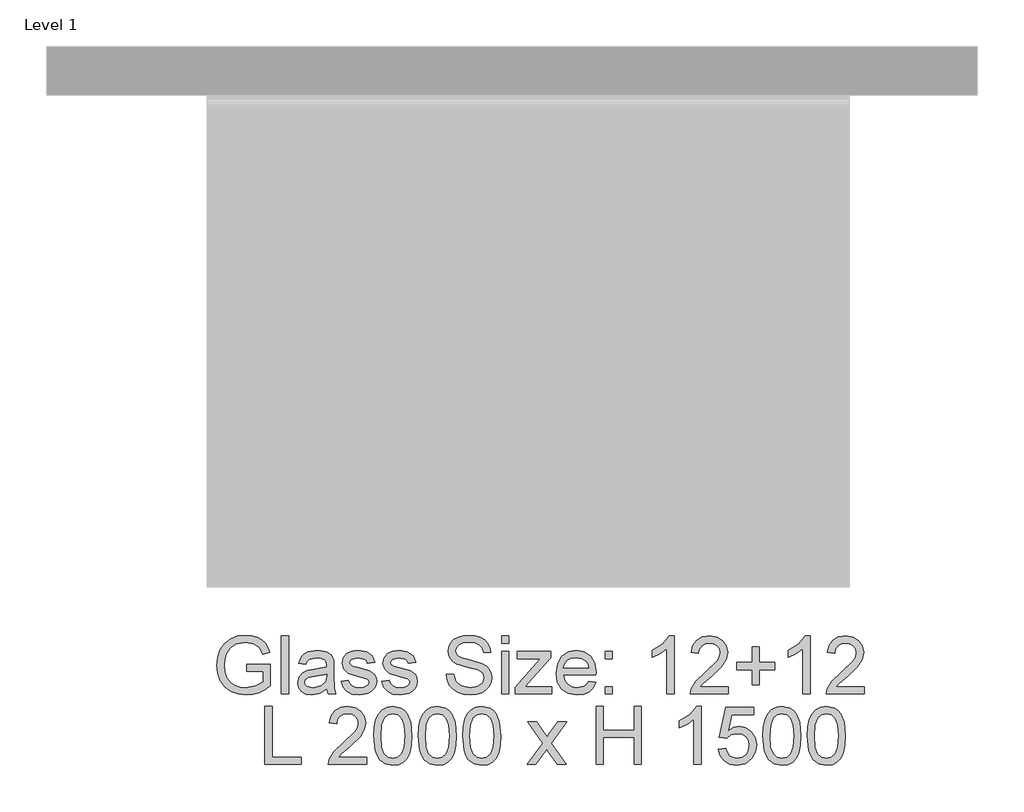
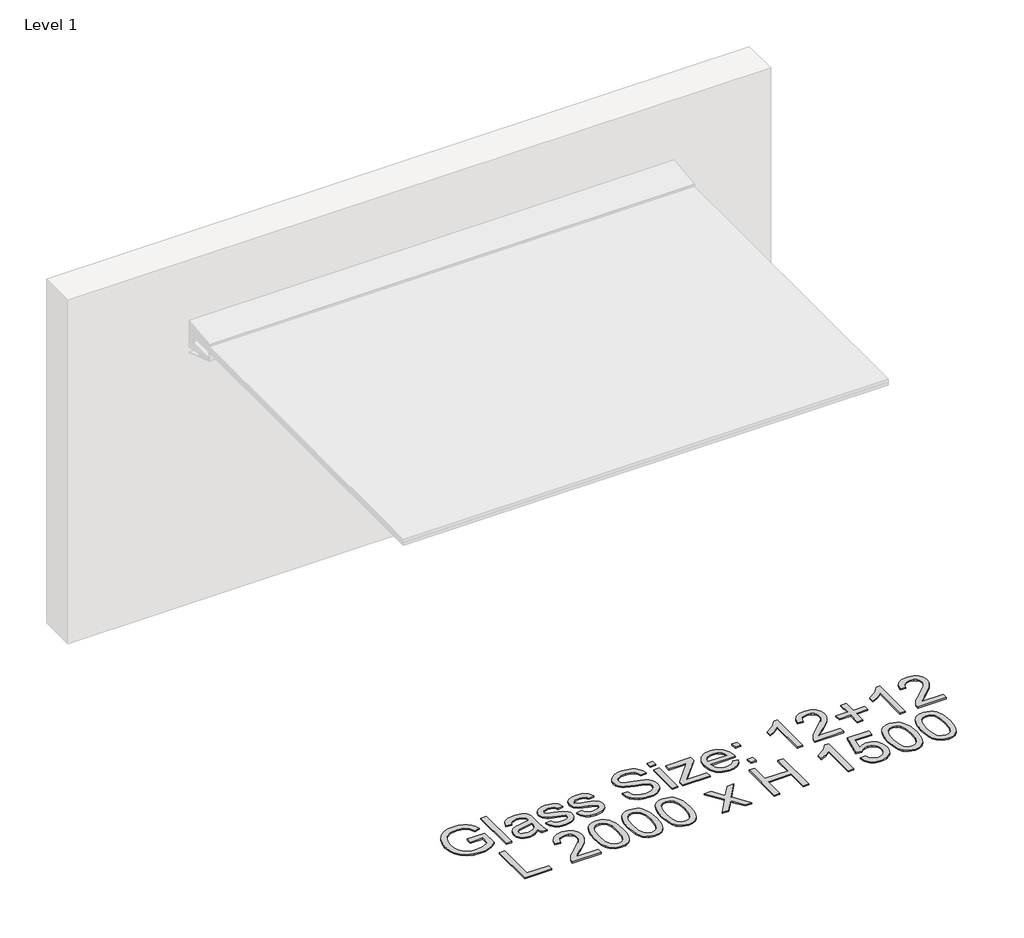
# One storey, part 3 of 7: 1 proxy.
"""IFC4 building model written with IfcOpenShell, lengths in millimetres."""

from ifc_helpers import new_model, si_unit, origin, origin_with_axes, place, context, project, spatial, polyline, outline, extrude, element, save

model = new_model("IFC4")

# Units and contexts
model_context = context("Model", 3, world=origin())
ifc_project = project(units=[si_unit("LENGTHUNIT", "METRE", prefix="MILLI")], contexts=[model_context])

# Site, building, storey
site = spatial("IfcSite", under=ifc_project)
building = spatial("IfcBuilding", under=site)
storey = spatial("IfcBuildingStorey", under=building, Name="Level 1", Elevation=0.0)

# Proxy
placement = place(None, origin())
element("IfcBuildingElementProxy", 1, Name="600mm Arial 3", ObjectType="600mm Arial 3", at=placement, inside=storey, context=model_context, shape_type="SweptSolid", body=[
    extrude(outline(polyline([(22306.0715057, -4137.1901227), (22306.0715057, -4114.5874529), (22379.5301825, -4114.5874529), (22379.5301825, -4182.174733), (22361.6787087, -4194.5907504), (22343.2643754, -4203.4971735), (22324.3313285, -4208.860893), (22304.9237139, -4210.6487995), (22279.5674473, -4207.8069111), (22256.6502384, -4199.2812458), (22237.6123452, -4185.3697882), (22223.8940256, -4166.3705225), (22215.600126, -4143.5802329), (22212.8354928, -4118.2957034), (22215.5890896, -4092.8290723), (22223.8498798, -4069.1393112), (22237.2757332, -4049.2681652), (22255.5245195, -4035.2573794), (22277.7519497, -4026.9469252), (22303.1137344, -4024.1767737), (22321.7322422, -4025.7825787), (22338.4745518, -4030.5999934), (22352.5736293, -4038.2813694), (22363.2624406, -4048.4790584), (22371.1700641, -4061.6841826), (22376.9255779, -4078.3878646), (22356.0887417, -4084.2592612), (22345.7806882, -4063.3562062), (22328.1664983, -4051.3043921), (22302.7605677, -4046.7794435), (22273.82297, -4051.6575588), (22254.1339256, -4064.4598522), (22242.5014969, -4081.8753859), (22237.2039962, -4098.9377528), (22235.4381626, -4117.3686408), (22237.5626811, -4138.9835474), (22243.9362367, -4156.7688025), (22254.3656913, -4170.5974866), (22268.6579068, -4180.3426807), (22285.3836617, -4186.1202674), (22303.1137344, -4188.0461297), (22334.037895, -4182.2409518), (22356.9275127, -4169.8580438), (22356.9275127, -4137.1901227), (22306.0715057, -4137.1901227)])), origin_with_axes(), (0.0, 0.0, 1.0), 5.0),
    extrude(outline(polyline([(22413.4341871, -4207.8234657), (22413.4341871, -4027.0021075), (22436.0368569, -4027.0021075), (22436.0368569, -4207.8234657), (22413.4341871, -4207.8234657)])), origin_with_axes(), (0.0, 0.0, 1.0), 5.0),
    extrude(outline(polyline([(22554.7008733, -4190.8714634), (22532.782464, -4206.1900697), (22508.5684711, -4210.6487995), (22489.6795701, -4207.9669397), (22475.7460395, -4199.9213605), (22467.1541555, -4187.7039994), (22464.2901942, -4172.5067942), (22468.6164864, -4154.6277292), (22479.9840401, -4141.6488524), (22495.8103235, -4134.2323514), (22515.3669304, -4130.8331218), (22554.5684358, -4123.0634541), (22554.7008733, -4118.0308284), (22553.1447325, -4107.9435041), (22548.4763099, -4101.3437011), (22538.0358189, -4096.4435129), (22523.4897648, -4094.8101168), (22500.62222, -4099.158482), (22494.2100368, -4105.1899073), (22489.7181977, -4114.5874529), (22467.1155279, -4111.7621192), (22476.8938313, -4089.6891995), (22485.2263585, -4082.261662), (22496.5828757, -4076.7544685), (22526.4033902, -4072.207447), (22553.7958836, -4076.2247184), (22569.2690003, -4086.3120427), (22576.1998971, -4101.6527219), (22577.3035431, -4121.430058), (22577.3035431, -4149.5509577), (22578.4513349, -4188.8186819), (22582.9542105, -4207.8234657), (22560.3515407, -4207.8234657), (22554.7008733, -4190.8714634)]), holes=[polyline([(22554.7008733, -4145.6661238), (22518.2364099, -4152.5970206), (22498.7901677, -4156.2611253), (22489.9830727, -4162.2208136), (22486.8928639, -4170.917544), (22488.5759241, -4177.638748), (22493.6251045, -4183.1459415), (22513.3803676, -4188.0461297), (22536.2479124, -4182.6382644), (22550.9926228, -4169.549023), (22554.5684358, -4152.0672706), (22554.7008733, -4145.6661238)])]), origin_with_axes(), (0.0, 0.0, 1.0), 5.0),
    extrude(outline(polyline([(22599.9062129, -4168.2687936), (22622.5088826, -4165.4434599), (22626.0736592, -4175.1113987), (22632.9714466, -4182.2188789), (22643.2463907, -4186.589317), (22656.9426374, -4188.0461297), (22670.4733372, -4186.710718), (22679.9867656, -4182.7044831), (22685.6153601, -4176.8993052), (22687.4915583, -4170.1670647), (22685.6043236, -4164.4060327), (22679.9426197, -4160.0135216), (22656.6777624, -4153.5682291), (22622.6413202, -4142.5096963), (22607.7862452, -4129.5970383), (22602.7315466, -4111.3648066), (22606.7929638, -4094.5231689), (22617.8735695, -4081.6546567), (22632.2430402, -4074.966562), (22651.6892825, -4072.207447), (22679.1921405, -4076.6441039), (22696.6738929, -4088.6517722), (22704.4435606, -4108.9367854), (22681.8408908, -4111.7621192), (22678.987966, -4104.6491208), (22673.3428167, -4099.2909195), (22653.4551161, -4094.8101168), (22631.8236548, -4099.0922632), (22625.3342164, -4109.069223), (22628.0271126, -4115.646953), (22636.4589679, -4120.6354329), (22655.9272831, -4125.4473294), (22689.1028814, -4136.0864767), (22704.5097794, -4148.1382908), (22708.6981159, -4157.0005681), (22710.0942281, -4167.7831894), (22708.4553138, -4178.9300138), (22703.5385709, -4189.4146507), (22695.5316193, -4198.4148837), (22684.6220787, -4205.1084966), (22656.6336165, -4210.6487995), (22633.8433269, -4207.9779762), (22617.2113819, -4199.9655063), (22606.1087033, -4186.6996816), (22599.9062129, -4168.2687936)])), origin_with_axes(), (0.0, 0.0, 1.0), 5.0),
    extrude(outline(polyline([(22727.0462304, -4168.2687936), (22749.6489002, -4165.4434599), (22753.2136767, -4175.1113987), (22760.1114641, -4182.2188789), (22770.3864082, -4186.589317), (22784.0826549, -4188.0461297), (22797.6133547, -4186.710718), (22807.1267831, -4182.7044831), (22812.7553776, -4176.8993052), (22814.6315758, -4170.1670647), (22812.7443412, -4164.4060327), (22807.0826373, -4160.0135216), (22783.8177799, -4153.5682291), (22749.7813377, -4142.5096963), (22734.9262627, -4129.5970383), (22729.8715641, -4111.3648066), (22733.9329813, -4094.5231689), (22745.013587, -4081.6546567), (22759.3830578, -4074.966562), (22778.8293, -4072.207447), (22806.332158, -4076.6441039), (22823.8139104, -4088.6517722), (22831.5835781, -4108.9367854), (22808.9809084, -4111.7621192), (22806.1279835, -4104.6491208), (22800.4828343, -4099.2909195), (22780.5951336, -4094.8101168), (22758.9636723, -4099.0922632), (22752.4742339, -4109.069223), (22755.1671301, -4115.646953), (22763.5989854, -4120.6354329), (22783.0673006, -4125.4473294), (22816.2428989, -4136.0864767), (22831.6497969, -4148.1382908), (22835.8381334, -4157.0005681), (22837.2342456, -4167.7831894), (22835.5953313, -4178.9300138), (22830.6785884, -4189.4146507), (22822.6716368, -4198.4148837), (22811.7620962, -4205.1084966), (22783.7736341, -4210.6487995), (22760.9833445, -4207.9779762), (22744.3513995, -4199.9655063), (22733.2487208, -4186.6996816), (22727.0462304, -4168.2687936)])), origin_with_axes(), (0.0, 0.0, 1.0), 5.0),
    extrude(outline(polyline([(22927.6449247, -4145.6661238), (22950.2475945, -4145.6661238), (22957.531658, -4168.2908665), (22964.8488309, -4176.2922999), (22975.3224313, -4182.5941185), (23002.4279767, -4188.0461297), (23026.0460008, -4183.9184937), (23041.2983883, -4172.573013), (23046.3089411, -4157.4089171), (23042.5565447, -4143.3043214), (23027.1937926, -4133.0404138), (22994.2830693, -4124.4099022), (22958.8560332, -4113.2630777), (22947.6043624, -4105.6589569), (22939.6305201, -4096.4435129), (22934.8793242, -4085.815402), (22933.2955922, -4073.9732806), (22935.2545638, -4060.735047), (22941.1314787, -4048.3907667), (22950.7718264, -4037.9282027), (22964.0210964, -4030.3351183), (22979.9246351, -4025.7163599), (22997.5277885, -4024.1767737), (23016.5987912, -4025.7880969), (23033.2859185, -4030.6220663), (23046.9932016, -4038.5793539), (23057.1246717, -4049.5606314), (23063.5368549, -4062.8816385), (23066.0862772, -4077.8581145), (23043.4836074, -4077.8581145), (23039.3338985, -4064.3715605), (23030.6813139, -4054.6374029), (23017.1616506, -4048.7439334), (22998.4107053, -4046.7794435), (22979.2183016, -4048.7218605), (22966.051805, -4054.5491113), (22958.4366477, -4063.1244406), (22955.898262, -4073.311093), (22957.6972049, -4081.9967869), (22963.0940338, -4088.982866), (22975.8521814, -4095.2295023), (22999.9999555, -4101.6085761), (23039.9960861, -4112.9540568), (23052.8811529, -4121.1541465), (23061.8703495, -4131.2745802), (23067.1512955, -4143.2049933), (23068.9116109, -4156.8350212), (23066.8864205, -4170.7685518), (23060.8108493, -4183.8743479), (23050.9332178, -4195.1536098), (23037.5018461, -4203.6075381), (23021.3499871, -4208.8884841), (23003.3108935, -4210.6487995), (22981.1662368, -4208.7505284), (22962.9395233, -4203.0557151), (22948.4210604, -4193.5422867), (22937.4011552, -4180.1881703), (22930.3267845, -4163.9204284), (22927.6449247, -4145.6661238)])), origin_with_axes(), (0.0, 0.0, 1.0), 5.0),
    extrude(outline(polyline([(23099.9902818, -4049.6047773), (23099.9902818, -4027.0021075), (23122.5929516, -4027.0021075), (23122.5929516, -4049.6047773), (23099.9902818, -4049.6047773)])), origin_with_axes(), (0.0, 0.0, 1.0), 5.0),
    extrude(outline(polyline([(23099.9902818, -4207.8234657), (23099.9902818, -4075.0327808), (23122.5929516, -4075.0327808), (23122.5929516, -4207.8234657), (23099.9902818, -4207.8234657)])), origin_with_axes(), (0.0, 0.0, 1.0), 5.0),
    extrude(outline(polyline([(23142.3702877, -4207.8234657), (23142.3702877, -4186.5451711), (23220.3759859, -4097.6354505), (23197.2877119, -4097.6354505), (23148.0209551, -4097.6354505), (23148.0209551, -4075.0327808), (23252.5583029, -4075.0327808), (23252.5583029, -4094.2362209), (23183.3817725, -4173.124836), (23172.786771, -4185.220796), (23198.921108, -4185.220796), (23255.3836366, -4185.220796), (23255.3836366, -4207.8234657), (23142.3702877, -4207.8234657)])), origin_with_axes(), (0.0, 0.0, 1.0), 5.0),
    extrude(outline(polyline([(23370.9574442, -4168.2687936), (23393.1186556, -4171.0941273), (23385.1337769, -4187.7922911), (23372.392184, -4200.2745272), (23355.1808248, -4208.0552314), (23333.7866474, -4210.6487995), (23307.2660344, -4206.173515), (23286.8596201, -4192.7476616), (23273.8476339, -4171.2431196), (23269.5103052, -4142.5317692), (23273.8917798, -4112.8547287), (23287.0362035, -4090.6604079), (23307.1667062, -4076.8206873), (23332.5064181, -4072.207447), (23357.057023, -4076.8096508), (23376.6743304, -4090.6162621), (23389.5373244, -4112.766437), (23393.824989, -4142.3993317), (23393.6925515, -4148.4914576), (23292.112975, -4148.4914576), (23296.0254, -4165.4103505), (23305.1139247, -4177.8484408), (23318.2307572, -4185.4967075), (23334.2281058, -4188.0461297), (23356.3893172, -4183.3225249), (23364.6225162, -4177.1972896), (23370.9574442, -4168.2687936)]), holes=[polyline([(23292.112975, -4125.8887878), (23371.2223192, -4125.8887878), (23368.1652199, -4113.9473382), (23362.1724222, -4105.4051183), (23348.9948891, -4097.4588672), (23332.4181264, -4094.8101168), (23317.1822936, -4096.9235989), (23304.5841746, -4103.2640451), (23295.8267437, -4113.1471949), (23292.112975, -4125.8887878)])]), origin_with_axes(), (0.0, 0.0, 1.0), 5.0),
    extrude(outline(polyline([(23422.0783262, -4097.6354505), (23422.0783262, -4075.0327808), (23444.680996, -4075.0327808), (23444.680996, -4097.6354505), (23422.0783262, -4097.6354505)])), origin_with_axes(), (0.0, 0.0, 1.0), 5.0),
    extrude(outline(polyline([(23422.0783262, -4207.8234657), (23422.0783262, -4185.220796), (23444.680996, -4185.220796), (23444.680996, -4207.8234657), (23422.0783262, -4207.8234657)])), origin_with_axes(), (0.0, 0.0, 1.0), 5.0),
    extrude(outline(polyline([(23636.8036892, -4207.8234657), (23614.2010194, -4207.8234657), (23614.2010194, -4066.9099463), (23592.7902873, -4082.1623338), (23568.9956798, -4093.5740333), (23568.9956798, -4072.207447), (23602.1271323, -4051.06159), (23622.2355622, -4027.0021075), (23636.8036892, -4027.0021075), (23636.8036892, -4207.8234657)])), origin_with_axes(), (0.0, 0.0, 1.0), 5.0),
    extrude(outline(polyline([(23806.3237126, -4185.220796), (23806.3237126, -4207.8234657), (23687.6596962, -4207.8234657), (23690.0877174, -4192.2399844), (23703.8391464, -4168.2467207), (23732.1587023, -4142.046165), (23771.1615515, -4104.389764), (23778.4621697, -4091.4108872), (23780.8957091, -4078.7851771), (23778.5946072, -4067.4672875), (23771.6913015, -4058.0587055), (23761.0797454, -4051.7182593), (23747.653892, -4049.6047773), (23733.5548145, -4051.6685952), (23722.6011281, -4057.8600492), (23715.5322756, -4067.693535), (23713.0876997, -4080.6834482), (23690.4850299, -4077.8581145), (23695.9646322, -4055.9948875), (23707.8122719, -4040.0251301), (23725.4099071, -4030.2578631), (23748.1394962, -4027.0021075), (23771.0346322, -4030.6220663), (23788.599158, -4041.4819428), (23799.7735736, -4057.7055388), (23803.4983788, -4077.4166561), (23799.4811075, -4098.8494611), (23786.126991, -4121.0106725), (23753.7460178, -4151.9789789), (23727.7441184, -4173.7208048), (23717.5464295, -4185.220796), (23806.3237126, -4185.220796)])), origin_with_axes(), (0.0, 0.0, 1.0), 5.0),
    extrude(outline(polyline([(23879.7823894, -4179.5701285), (23879.7823894, -4131.5394552), (23831.7517161, -4131.5394552), (23831.7517161, -4108.9367854), (23879.7823894, -4108.9367854), (23879.7823894, -4060.9061121), (23902.3850591, -4060.9061121), (23902.3850591, -4108.9367854), (23950.4157324, -4108.9367854), (23950.4157324, -4131.5394552), (23902.3850591, -4131.5394552), (23902.3850591, -4179.5701285), (23879.7823894, -4179.5701285)])), origin_with_axes(), (0.0, 0.0, 1.0), 5.0),
    extrude(outline(polyline([(24060.6037476, -4207.8234657), (24038.0010778, -4207.8234657), (24038.0010778, -4066.9099463), (24016.5903457, -4082.1623338), (23992.7957383, -4093.5740333), (23992.7957383, -4072.207447), (24025.9271908, -4051.06159), (24046.0356206, -4027.0021075), (24060.6037476, -4027.0021075), (24060.6037476, -4207.8234657)])), origin_with_axes(), (0.0, 0.0, 1.0), 5.0),
    extrude(outline(polyline([(24230.123771, -4185.220796), (24230.123771, -4207.8234657), (24111.4597546, -4207.8234657), (24113.8877758, -4192.2399844), (24127.6392048, -4168.2467207), (24155.9587608, -4142.046165), (24194.9616099, -4104.389764), (24202.2622281, -4091.4108872), (24204.6957675, -4078.7851771), (24202.3946656, -4067.4672875), (24195.49136, -4058.0587055), (24184.8798038, -4051.7182593), (24171.4539504, -4049.6047773), (24157.354873, -4051.6685952), (24146.4011865, -4057.8600492), (24139.332334, -4067.693535), (24136.8877582, -4080.6834482), (24114.2850884, -4077.8581145), (24119.7646907, -4055.9948875), (24131.6123303, -4040.0251301), (24149.2099656, -4030.2578631), (24171.9395547, -4027.0021075), (24194.8346906, -4030.6220663), (24212.3992165, -4041.4819428), (24223.5736321, -4057.7055388), (24227.2984373, -4077.4166561), (24223.2811659, -4098.8494611), (24209.9270495, -4121.0106725), (24177.5460763, -4151.9789789), (24151.5441768, -4173.7208048), (24141.3464879, -4185.220796), (24230.123771, -4185.220796)])), origin_with_axes(), (0.0, 0.0, 1.0), 5.0),
    extrude(outline(polyline([(22362.5781801, -4427.3781379), (22362.5781801, -4246.5567796), (22385.1808499, -4246.5567796), (22385.1808499, -4404.7754681), (22475.5915291, -4404.7754681), (22475.5915291, -4427.3781379), (22362.5781801, -4427.3781379)])), origin_with_axes(), (0.0, 0.0, 1.0), 5.0),
    extrude(outline(polyline([(22679.0155571, -4404.7754681), (22679.0155571, -4427.3781379), (22560.3515407, -4427.3781379), (22562.7795619, -4411.7946565), (22576.5309909, -4387.8013928), (22604.8505469, -4361.6008371), (22643.853396, -4323.9444361), (22651.1540142, -4310.9655593), (22653.5875536, -4298.3398492), (22651.2864517, -4287.0219597), (22644.3831461, -4277.6133776), (22633.7715899, -4271.2729314), (22620.3457365, -4269.1594494), (22606.2466591, -4271.2232674), (22595.2929726, -4277.4147213), (22588.2241201, -4287.2482071), (22585.7795442, -4300.2381203), (22563.1768745, -4297.4127866), (22568.6564768, -4275.5495596), (22580.5041164, -4259.5798022), (22598.1017517, -4249.8125353), (22620.8313407, -4246.5567796), (22643.7264767, -4250.1767384), (22661.2910026, -4261.0366149), (22672.4654182, -4277.2602109), (22676.1902234, -4296.9713282), (22672.172952, -4318.4041333), (22658.8188356, -4340.5653446), (22626.4378624, -4371.533651), (22600.4359629, -4393.2754769), (22590.238274, -4404.7754681), (22679.0155571, -4404.7754681)])), origin_with_axes(), (0.0, 0.0, 1.0), 5.0),
    extrude(outline(polyline([(22701.6182269, -4338.4242714), (22703.2792141, -4309.4811555), (22708.2621757, -4286.3983997), (22716.5174477, -4268.8228374), (22727.9953659, -4256.4013018), (22742.7787039, -4249.0179101), (22760.9502351, -4246.5567796), (22787.349447, -4252.3840304), (22797.7789016, -4259.4970288), (22805.5816787, -4269.1815223), (22816.1766802, -4295.933901), (22820.2822433, -4338.4242714), (22818.6378107, -4367.2018405), (22813.7045132, -4390.229414), (22805.4989053, -4407.821531), (22794.0375417, -4420.2927306), (22779.2210944, -4427.7257863), (22760.9502351, -4430.2034716), (22737.4646485, -4425.8992522), (22719.6297294, -4412.9865942), (22711.749697, -4399.3703619), (22706.1211025, -4382.404564), (22701.6182269, -4338.4242714)]), holes=[polyline([(22724.2208967, -4338.3801256), (22726.869647, -4373.934081), (22734.8158981, -4394.5115604), (22746.6469831, -4404.3284915), (22760.9502351, -4407.6008018), (22775.253487, -4404.317455), (22787.084572, -4394.4674146), (22795.0308231, -4373.8788987), (22797.6795735, -4338.3801256), (22795.1191148, -4303.6263135), (22787.4377387, -4282.8888054), (22775.6287267, -4272.5917884), (22760.68536, -4269.1594494), (22746.5366185, -4272.1834394), (22735.1690649, -4281.2554094), (22726.9579387, -4303.2841832), (22724.2208967, -4338.3801256)])]), origin_with_axes(), (0.0, 0.0, 1.0), 5.0),
    extrude(outline(polyline([(22840.0595793, -4338.4242714), (22841.7205665, -4309.4811555), (22846.7035281, -4286.3983997), (22854.9588001, -4268.8228374), (22866.4367184, -4256.4013018), (22881.2200563, -4249.0179101), (22899.3915875, -4246.5567796), (22925.7907995, -4252.3840304), (22936.220254, -4259.4970288), (22944.0230312, -4269.1815223), (22954.6180326, -4295.933901), (22958.7235957, -4338.4242714), (22957.0791632, -4367.2018405), (22952.1458656, -4390.229414), (22943.9402577, -4407.821531), (22932.4788941, -4420.2927306), (22917.6624468, -4427.7257863), (22899.3915875, -4430.2034716), (22875.9060009, -4425.8992522), (22858.0710818, -4412.9865942), (22850.1910495, -4399.3703619), (22844.5624549, -4382.404564), (22840.0595793, -4338.4242714)]), holes=[polyline([(22862.6622491, -4338.3801256), (22865.3109995, -4373.934081), (22873.2572506, -4394.5115604), (22885.0883355, -4404.3284915), (22899.3915875, -4407.6008018), (22913.6948395, -4404.317455), (22925.5259244, -4394.4674146), (22933.4721755, -4373.8788987), (22936.1209259, -4338.3801256), (22933.5604672, -4303.6263135), (22925.8790912, -4282.8888054), (22914.0700791, -4272.5917884), (22899.1267125, -4269.1594494), (22884.9779709, -4272.1834394), (22873.6104173, -4281.2554094), (22865.3992911, -4303.2841832), (22862.6622491, -4338.3801256)])]), origin_with_axes(), (0.0, 0.0, 1.0), 5.0),
    extrude(outline(polyline([(22978.5009317, -4338.4242714), (22980.1619189, -4309.4811555), (22985.1448806, -4286.3983997), (22993.4001525, -4268.8228374), (23004.8780708, -4256.4013018), (23019.6614088, -4249.0179101), (23037.8329399, -4246.5567796), (23064.2321519, -4252.3840304), (23074.6616065, -4259.4970288), (23082.4643836, -4269.1815223), (23093.059385, -4295.933901), (23097.1649481, -4338.4242714), (23095.5205156, -4367.2018405), (23090.587218, -4390.229414), (23082.3816101, -4407.821531), (23070.9202466, -4420.2927306), (23056.1037992, -4427.7257863), (23037.8329399, -4430.2034716), (23014.3473534, -4425.8992522), (22996.5124342, -4412.9865942), (22988.6324019, -4399.3703619), (22983.0038074, -4382.404564), (22978.5009317, -4338.4242714)]), holes=[polyline([(23001.1036015, -4338.3801256), (23003.7523519, -4373.934081), (23011.698603, -4394.5115604), (23023.529688, -4404.3284915), (23037.8329399, -4407.6008018), (23052.1361919, -4404.317455), (23063.9672769, -4394.4674146), (23071.913528, -4373.8788987), (23074.5622783, -4338.3801256), (23072.0018196, -4303.6263135), (23064.3204436, -4282.8888054), (23052.5114315, -4272.5917884), (23037.5680649, -4269.1594494), (23023.4193234, -4272.1834394), (23012.0517697, -4281.2554094), (23003.8406436, -4303.2841832), (23001.1036015, -4338.3801256)])]), origin_with_axes(), (0.0, 0.0, 1.0), 5.0),
    extrude(outline(polyline([(23179.0996261, -4427.3781379), (23227.3951744, -4360.5854828), (23181.9249598, -4294.5874529), (23209.0305052, -4294.5874529), (23230.9709874, -4326.4166031), (23241.256968, -4341.3820427), (23250.1744275, -4329.1094993), (23275.1609727, -4294.5874529), (23302.3548097, -4294.5874529), (23254.5890115, -4360.6296287), (23300.5889762, -4427.3781379), (23273.4392849, -4427.3781379), (23245.7156978, -4387.205424), (23240.6830721, -4379.8330688), (23206.2934632, -4427.3781379), (23179.0996261, -4427.3781379)])), origin_with_axes(), (0.0, 0.0, 1.0), 5.0),
    extrude(outline(polyline([(23393.824989, -4427.3781379), (23393.824989, -4246.5567796), (23416.4276588, -4246.5567796), (23416.4276588, -4320.0154564), (23512.4890054, -4320.0154564), (23512.4890054, -4246.5567796), (23535.0916752, -4246.5567796), (23535.0916752, -4427.3781379), (23512.4890054, -4427.3781379), (23512.4890054, -4342.6181262), (23416.4276588, -4342.6181262), (23416.4276588, -4427.3781379), (23393.824989, -4427.3781379)])), origin_with_axes(), (0.0, 0.0, 1.0), 5.0),
    extrude(outline(polyline([(23721.5637009, -4427.3781379), (23698.9610311, -4427.3781379), (23698.9610311, -4286.4646184), (23677.550299, -4301.717006), (23653.7556915, -4313.1287054), (23653.7556915, -4291.7621192), (23686.887144, -4270.6162621), (23706.9955739, -4246.5567796), (23721.5637009, -4246.5567796), (23721.5637009, -4427.3781379)])), origin_with_axes(), (0.0, 0.0, 1.0), 5.0),
    extrude(outline(polyline([(23775.2450416, -4379.3474646), (23797.8477114, -4376.5221308), (23801.9974203, -4390.0914582), (23809.237338, -4399.8090611), (23819.534355, -4405.6528666), (23832.8553621, -4407.6008018), (23849.0568851, -4404.8913509), (23861.196991, -4396.7629982), (23868.7790389, -4384.1538428), (23871.3063882, -4368.0019838), (23868.9390676, -4352.7937422), (23861.8371056, -4341.1613135), (23849.9453201, -4333.7779218), (23833.2085288, -4331.3167913), (23813.364974, -4335.245771), (23800.6730451, -4345.4434599), (23778.0703753, -4342.6181262), (23797.8477114, -4249.3821133), (23885.4330568, -4249.3821133), (23885.4330568, -4271.9847831), (23816.1240889, -4271.9847831), (23806.4120042, -4321.78129), (23822.558345, -4311.9809136), (23839.477238, -4308.7141215), (23860.6010221, -4312.7645023), (23878.1489933, -4324.9156446), (23889.9690418, -4343.4348242), (23893.909058, -4366.589317), (23890.3663544, -4389.1919868), (23879.7382435, -4408.5278644), (23859.3870116, -4424.7845698), (23832.7670704, -4430.2034716), (23810.5672314, -4426.7214685), (23792.8813045, -4416.2754592), (23780.7577533, -4400.0794544), (23775.2450416, -4379.3474646)])), origin_with_axes(), (0.0, 0.0, 1.0), 5.0),
    extrude(outline(polyline([(23913.686394, -4338.4242714), (23915.3473812, -4309.4811555), (23920.3303429, -4286.3983997), (23928.5856148, -4268.8228374), (23940.0635331, -4256.4013018), (23954.8468711, -4249.0179101), (23973.0184022, -4246.5567796), (23999.4176142, -4252.3840304), (24009.8470688, -4259.4970288), (24017.6498459, -4269.1815223), (24028.2448473, -4295.933901), (24032.3504104, -4338.4242714), (24030.7059779, -4367.2018405), (24025.7726803, -4390.229414), (24017.5670724, -4407.821531), (24006.1057089, -4420.2927306), (23991.2892615, -4427.7257863), (23973.0184022, -4430.2034716), (23949.5328156, -4425.8992522), (23931.6978965, -4412.9865942), (23923.8178642, -4399.3703619), (23918.1892697, -4382.404564), (23913.686394, -4338.4242714)]), holes=[polyline([(23936.2890638, -4338.3801256), (23938.9378142, -4373.934081), (23946.8840653, -4394.5115604), (23958.7151502, -4404.3284915), (23973.0184022, -4407.6008018), (23987.3216542, -4404.317455), (23999.1527392, -4394.4674146), (24007.0989903, -4373.8788987), (24009.7477406, -4338.3801256), (24007.1872819, -4303.6263135), (23999.5059059, -4282.8888054), (23987.6968938, -4272.5917884), (23972.7535272, -4269.1594494), (23958.6047857, -4272.1834394), (23947.237232, -4281.2554094), (23939.0261059, -4303.2841832), (23936.2890638, -4338.3801256)])]), origin_with_axes(), (0.0, 0.0, 1.0), 5.0),
    extrude(outline(polyline([(24052.1277465, -4338.4242714), (24053.7887337, -4309.4811555), (24058.7716953, -4286.3983997), (24067.0269673, -4268.8228374), (24078.5048855, -4256.4013018), (24093.2882235, -4249.0179101), (24111.4597546, -4246.5567796), (24137.8589666, -4252.3840304), (24148.2884212, -4259.4970288), (24156.0911983, -4269.1815223), (24166.6861998, -4295.933901), (24170.7917628, -4338.4242714), (24169.1473303, -4367.2018405), (24164.2140328, -4390.229414), (24156.0084249, -4407.821531), (24144.5470613, -4420.2927306), (24129.7306139, -4427.7257863), (24111.4597546, -4430.2034716), (24087.9741681, -4425.8992522), (24070.1392489, -4412.9865942), (24062.2592166, -4399.3703619), (24056.6306221, -4382.404564), (24052.1277465, -4338.4242714)]), holes=[polyline([(24074.7304162, -4338.3801256), (24077.3791666, -4373.934081), (24085.3254177, -4394.5115604), (24097.1565027, -4404.3284915), (24111.4597546, -4407.6008018), (24125.7630066, -4404.317455), (24137.5940916, -4394.4674146), (24145.5403427, -4373.8788987), (24148.189093, -4338.3801256), (24145.6286344, -4303.6263135), (24137.9472583, -4282.8888054), (24126.1382463, -4272.5917884), (24111.1948796, -4269.1594494), (24097.0461381, -4272.1834394), (24085.6785844, -4281.2554094), (24077.4674583, -4303.2841832), (24074.7304162, -4338.3801256)])]), origin_with_axes(), (0.0, 0.0, 1.0), 5.0),
])

save(model, "model.ifc")
